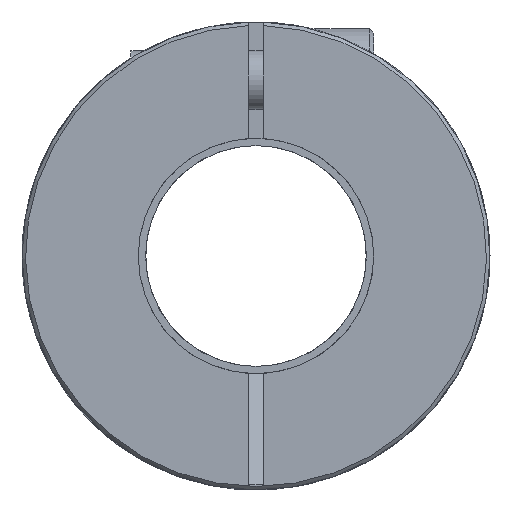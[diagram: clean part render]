
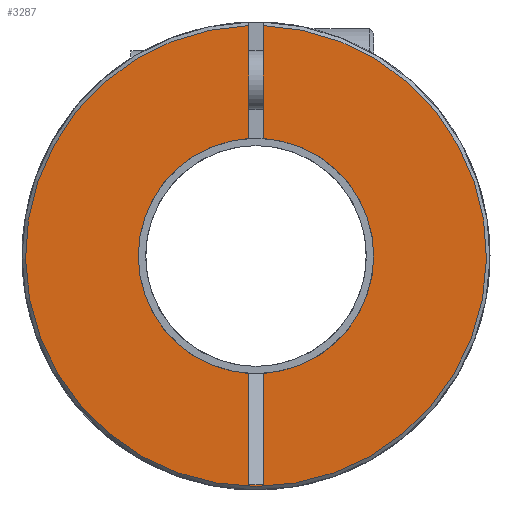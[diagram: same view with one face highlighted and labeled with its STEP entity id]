
A CAD part, front view. The second image highlights one B-rep face of the part: STEP entity #3287.
In plain terms, the highlighted planar face has unit normal (0, -1, 0).
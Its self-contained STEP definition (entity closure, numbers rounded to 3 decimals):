
#1=DIRECTION('',(0.,0.,-1.));
#2=VECTOR('',#1,7.668);
#3=CARTESIAN_POINT('',(-0.5,-28.6,15.652));
#4=LINE('',#3,#2);
#5=CARTESIAN_POINT('',(0.,-28.6,0.));
#6=DIRECTION('',(0.,1.,0.));
#7=DIRECTION('',(-1.,0.,0.));
#8=AXIS2_PLACEMENT_3D('',#5,#6,#7);
#10=CARTESIAN_POINT('',(0.,-28.6,0.));
#11=DIRECTION('',(0.,1.,0.));
#12=DIRECTION('',(-0.063,0.,-0.998));
#13=AXIS2_PLACEMENT_3D('',#10,#11,#12);
#15=DIRECTION('',(0.,0.,-1.));
#16=VECTOR('',#15,7.566);
#17=CARTESIAN_POINT('',(-0.5,-28.6,-7.984));
#18=LINE('',#17,#16);
#19=DIRECTION('',(1.,0.,0.));
#20=VECTOR('',#19,1.);
#21=CARTESIAN_POINT('',(-0.5,-28.6,-15.55));
#22=LINE('',#21,#20);
#23=DIRECTION('',(0.,0.,-1.));
#24=VECTOR('',#23,7.566);
#25=CARTESIAN_POINT('',(0.5,-28.6,-7.984));
#26=LINE('',#25,#24);
#27=DIRECTION('',(0.,0.,-1.));
#28=VECTOR('',#27,7.668);
#29=CARTESIAN_POINT('',(0.5,-28.6,15.652));
#30=LINE('',#29,#28);
#54=CARTESIAN_POINT('',(0.,-28.6,0.));
#55=DIRECTION('',(0.,1.,0.));
#56=DIRECTION('',(0.063,0.,0.998));
#57=AXIS2_PLACEMENT_3D('',#54,#55,#56);
#2775=CARTESIAN_POINT('',(0.,-28.6,0.));
#2776=DIRECTION('',(0.,-1.,0.));
#2777=DIRECTION('',(-0.032,0.,0.999));
#2778=AXIS2_PLACEMENT_3D('',#2775,#2776,#2777);
#2927=CARTESIAN_POINT('',(-8.,-28.6,0.));
#2928=VERTEX_POINT('',#2927);
#3010=CARTESIAN_POINT('',(-0.5,-28.6,-15.55));
#3012=VERTEX_POINT('',#3010);
#3014=CARTESIAN_POINT('',(0.5,-28.6,-15.55));
#3016=VERTEX_POINT('',#3014);
#3065=CARTESIAN_POINT('',(-0.5,-28.6,15.652));
#3066=CARTESIAN_POINT('',(-0.5,-28.6,7.984));
#3067=VERTEX_POINT('',#3065);
#3068=VERTEX_POINT('',#3066);
#3069=CARTESIAN_POINT('',(-0.5,-28.6,-7.984));
#3070=VERTEX_POINT('',#3069);
#3071=CARTESIAN_POINT('',(0.5,-28.6,15.652));
#3072=CARTESIAN_POINT('',(0.5,-28.6,7.984));
#3073=VERTEX_POINT('',#3071);
#3074=VERTEX_POINT('',#3072);
#3075=CARTESIAN_POINT('',(0.5,-28.6,-7.984));
#3076=VERTEX_POINT('',#3075);
#3262=CARTESIAN_POINT('',(0.,-28.6,0.));
#3263=DIRECTION('',(0.,1.,0.));
#3264=DIRECTION('',(1.,0.,0.));
#3265=AXIS2_PLACEMENT_3D('',#3262,#3263,#3264);
#3266=PLANE('',#3265);
#3268=ORIENTED_EDGE('',*,*,#3267,.T.);
#3270=ORIENTED_EDGE('',*,*,#3269,.F.);
#3272=ORIENTED_EDGE('',*,*,#3271,.F.);
#3274=ORIENTED_EDGE('',*,*,#3273,.T.);
#3276=ORIENTED_EDGE('',*,*,#3275,.T.);
#3278=ORIENTED_EDGE('',*,*,#3277,.F.);
#3280=ORIENTED_EDGE('',*,*,#3279,.F.);
#3282=ORIENTED_EDGE('',*,*,#3281,.F.);
#3284=ORIENTED_EDGE('',*,*,#3283,.F.);
#3285=EDGE_LOOP('',(#3268,#3270,#3272,#3274,#3276,#3278,#3280,#3282,#3284));
#3286=FACE_OUTER_BOUND('',#3285,.F.);
#3287=ADVANCED_FACE('',(#3286),#3266,.F.);
#9=CIRCLE('',#8,8.);
#14=CIRCLE('',#13,8.);
#58=CIRCLE('',#57,8.);
#2779=CIRCLE('',#2778,15.66);
#3267=EDGE_CURVE('',#3067,#3068,#4,.T.);
#3269=EDGE_CURVE('',#2928,#3068,#9,.T.);
#3271=EDGE_CURVE('',#3070,#2928,#14,.T.);
#3273=EDGE_CURVE('',#3070,#3012,#18,.T.);
#3275=EDGE_CURVE('',#3012,#3016,#22,.T.);
#3277=EDGE_CURVE('',#3076,#3016,#26,.T.);
#3279=EDGE_CURVE('',#3074,#3076,#58,.T.);
#3281=EDGE_CURVE('',#3073,#3074,#30,.T.);
#3283=EDGE_CURVE('',#3067,#3073,#2779,.T.);
